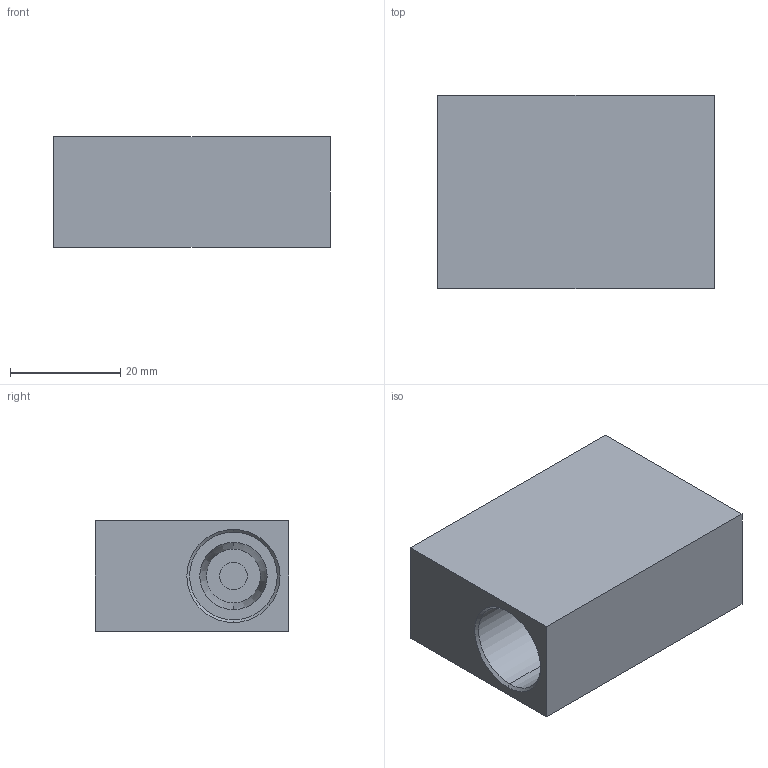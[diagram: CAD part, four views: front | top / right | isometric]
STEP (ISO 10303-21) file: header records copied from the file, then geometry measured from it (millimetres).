
FILE_DESCRIPTION (( 'STEP AP203' ), '1' );
FILE_NAME ('FT15TS06.STEP', '2026-06-26T01:21:52', ( 'USER' ), ( '' ), 'SwSTEP 2.0', 'SolidWorks 2023', '' );
FILE_SCHEMA (( 'CONFIG_CONTROL_DESIGN' ));
Length unit declared in the file: millimetre
Products named in the file (1): FT15TS06
Bounding box: 50 x 35 x 20 mm (x, y, z)
Volume: 25760.7 mm3; surface area: 9392.5 mm2
Topology: 1 solids, 1 shells, 45 faces, 90 edges, 56 vertices
Faces by surface type: cylinder 18, plane 15, cone 12
Entity records: 1253 total; most frequent: DIRECTION 230, CARTESIAN_POINT 192, ORIENTED_EDGE 180, AXIS2_PLACEMENT_3D 94, EDGE_CURVE 90, VERTEX_POINT 56, EDGE_LOOP 54, CIRCLE 48
